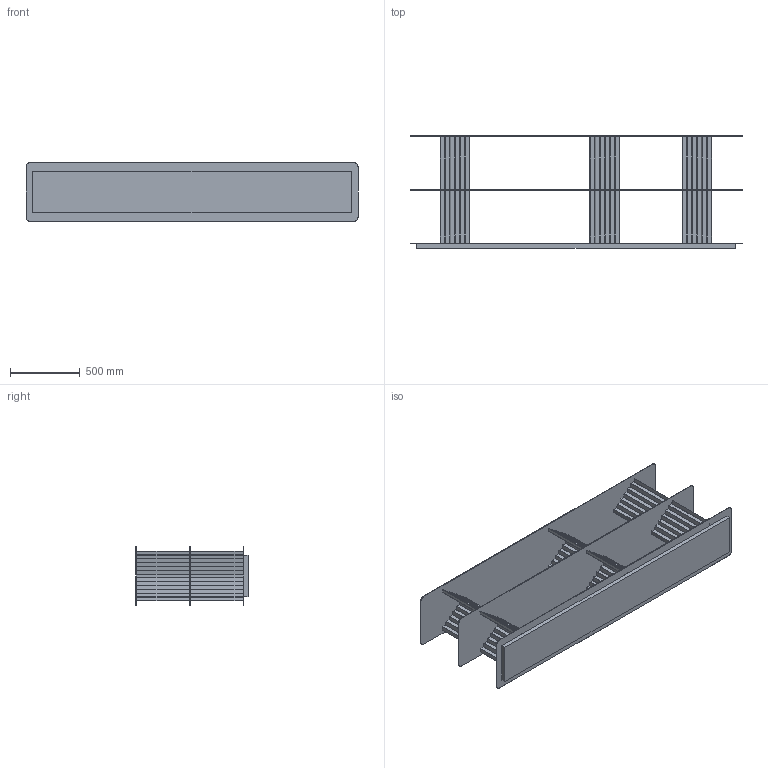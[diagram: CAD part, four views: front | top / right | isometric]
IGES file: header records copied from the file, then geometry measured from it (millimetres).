
Start section: SolidWorks IGES file using analytic representation for surfaces
Global section: file name: Z:\30-Ingenieria I+D\Proyectos\03-Plec_Shelves APO\1-sw\WEB\Arxius\PLEC SHELVES L 2 NIVELES.IGS; native system: SolidWorks 2020; preprocessor: SolidWorks 2020; author: Bernat Llonch; date: 250508.115330; units: millimetre
Bounding box: 2379 x 803 x 420 mm (x, y, z)
Surface area: 10896894.3 mm2 (no closed solid volume)
Topology: 0 solids, 0 shells, 360 faces, 2208 edges, 2208 vertices
Faces by surface type: bspline 348, revolution 12
